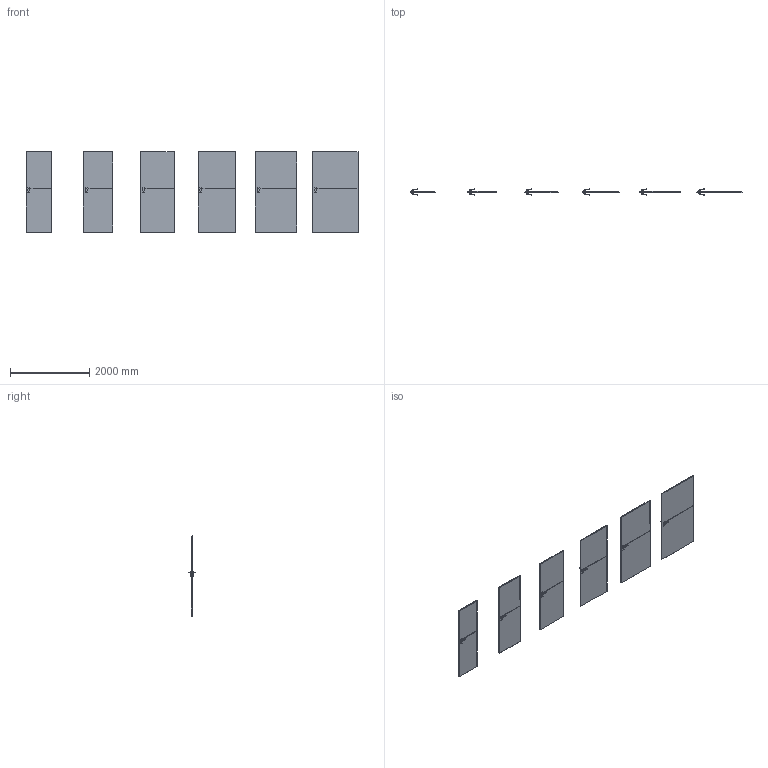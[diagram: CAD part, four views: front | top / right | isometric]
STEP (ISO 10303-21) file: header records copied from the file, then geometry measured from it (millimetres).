
FILE_DESCRIPTION(/* description */ (''),/* implementation_level */ '2;1');
FILE_NAME(/* name */ '049631_A_2-Skrzydło LINE model F.1_ polska norma _PN__ przylgowe..stp',/* time_stamp */ '2024-01-26T09:05:52+01:00',/* author */ (''),/* organization */ (''),/* preprocessor_version */ 'ST-DEVELOPER v16',/* originating_system */ 'SIEMENS PLM Software NX 11.0',/* authorisation */ '');
FILE_SCHEMA (('AUTOMOTIVE_DESIGN { 1 0 10303 214 3 1 1 1 }'));
Length unit declared in the file: millimetre
Products named in the file (1): bkni4C30E0B7uy80
Bounding box: 8394 x 153.27 x 2030 mm (x, y, z)
Volume: 418564622.4 mm3; surface area: 23645753.8 mm2
Topology: 44 solids, 44 shells, 1212 faces, 2844 edges, 1600 vertices
Faces by surface type: plane 576, cylinder 276, bspline 192, sphere 168
Entity records: 39908 total; most frequent: CARTESIAN_POINT 13913, ORIENTED_EDGE 5352, DIRECTION 5102, EDGE_CURVE 2676, AXIS2_PLACEMENT_3D 1765, VERTEX_POINT 1600, LINE 1572, VECTOR 1572
